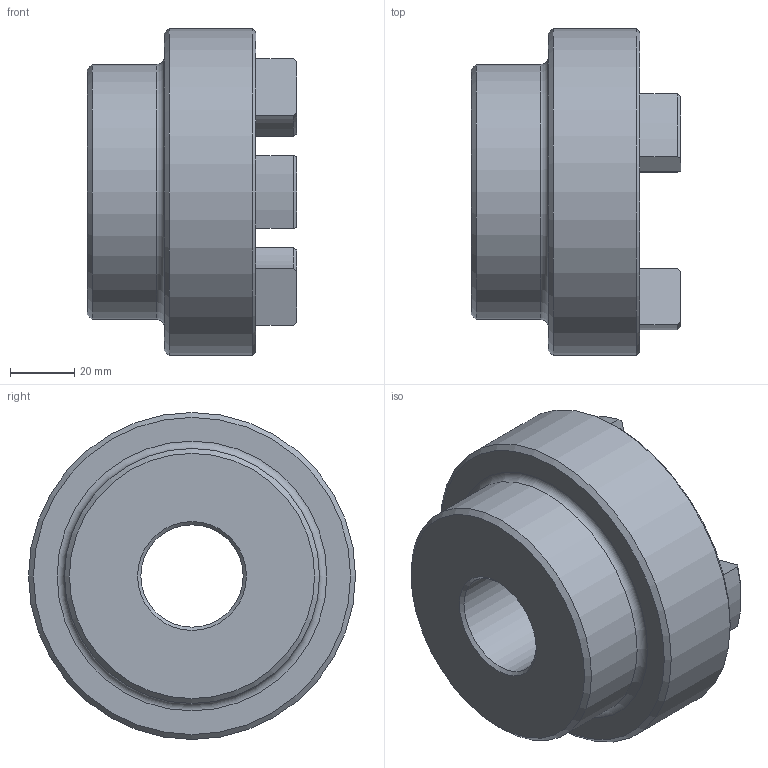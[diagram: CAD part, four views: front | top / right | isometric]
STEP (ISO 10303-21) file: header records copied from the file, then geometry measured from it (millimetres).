
FILE_DESCRIPTION (( 'STEP AP203' ), '1' );
FILE_NAME ('RC4.step', '2024-07-24T17:39:17', ( 'Adlan' ), ( '' ), 'SwSTEP 2.0', 'SolidWorks 2013', '' );
FILE_SCHEMA (( 'CONFIG_CONTROL_DESIGN' ));
Length unit declared in the file: inch
Products named in the file (1): RC4
Bounding box: 65.02 x 101.6 x 101.6 mm (x, y, z)
Volume: 250719.5 mm3; surface area: 40435 mm2
Topology: 1 solids, 1 shells, 60 faces, 146 edges, 90 vertices
Faces by surface type: cylinder 24, plane 13, torus 13, cone 10
Full cylindrical faces by diameter (mm): 31.763 x1, 79.248 x1, 101.6 x1
Entity records: 1841 total; most frequent: CARTESIAN_POINT 341, DIRECTION 324, ORIENTED_EDGE 274, EDGE_CURVE 137, AXIS2_PLACEMENT_3D 132, VERTEX_POINT 89, EDGE_LOOP 72, CIRCLE 71
